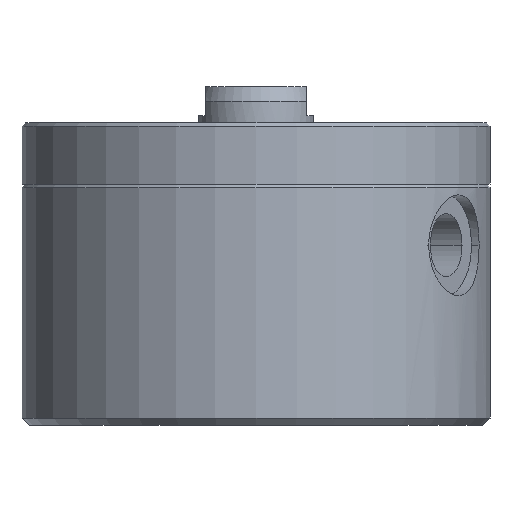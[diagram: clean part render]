
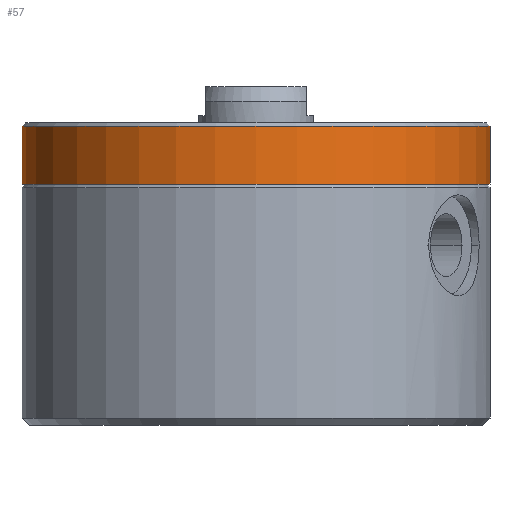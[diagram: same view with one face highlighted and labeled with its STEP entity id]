
A CAD part, front view. The second image highlights one B-rep face of the part: STEP entity #57.
In plain terms, the highlighted cylindrical face has radius 32.5 mm (diameter 65 mm), a partial arc.
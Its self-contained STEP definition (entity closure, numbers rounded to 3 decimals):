
#52 = ORIENTED_EDGE ( 'NONE', *, *, #2197, .T. ) ;
#57 = ADVANCED_FACE ( 'NONE', ( #2710 ), #2702, .T. ) ;
#72 = EDGE_LOOP ( 'NONE', ( #1723, #367, #52, #1390 ) ) ;
#326 = DIRECTION ( 'NONE',  ( -1., 0., 0. ) ) ;
#367 = ORIENTED_EDGE ( 'NONE', *, *, #2449, .T. ) ;
#413 = DIRECTION ( 'NONE',  ( 0., 0., -1. ) ) ;
#667 = VERTEX_POINT ( 'NONE', #2862 ) ;
#777 = CARTESIAN_POINT ( 'NONE',  ( 0., 0., 42. ) ) ;
#909 = AXIS2_PLACEMENT_3D ( 'NONE', #2889, #2815, #2785 ) ;
#911 = AXIS2_PLACEMENT_3D ( 'NONE', #3078, #3062, #2910 ) ;
#1118 = VERTEX_POINT ( 'NONE', #1867 ) ;
#1196 = VERTEX_POINT ( 'NONE', #2160 ) ;
#1390 = ORIENTED_EDGE ( 'NONE', *, *, #2455, .T. ) ;
#1399 = VERTEX_POINT ( 'NONE', #1908 ) ;
#1438 = CARTESIAN_POINT ( 'NONE',  ( 32.5, 0., 42. ) ) ;
#1520 = DIRECTION ( 'NONE',  ( 0., 0., -1. ) ) ;
#1548 = DIRECTION ( 'NONE',  ( 0., 0., -1. ) ) ;
#1554 = CIRCLE ( 'NONE', #909, 32.5 ) ;
#1555 = CARTESIAN_POINT ( 'NONE',  ( -32.5, 0., 42. ) ) ;
#1556 = CIRCLE ( 'NONE', #911, 32.5 ) ;
#1698 = AXIS2_PLACEMENT_3D ( 'NONE', #777, #413, #326 ) ;
#1723 = ORIENTED_EDGE ( 'NONE', *, *, #2187, .F. ) ;
#1816 = VECTOR ( 'NONE', #1520, 1000. ) ;
#1823 = VECTOR ( 'NONE', #1548, 1000. ) ;
#1828 = LINE ( 'NONE', #1438, #1823 ) ;
#1851 = LINE ( 'NONE', #1555, #1816 ) ;
#1867 = CARTESIAN_POINT ( 'NONE',  ( 32.5, 0., 41.5 ) ) ;
#1908 = CARTESIAN_POINT ( 'NONE',  ( -32.5, 0., 33.5 ) ) ;
#2160 = CARTESIAN_POINT ( 'NONE',  ( -32.5, 0., 41.5 ) ) ;
#2187 = EDGE_CURVE ( 'NONE', #1118, #667, #1828, .T. ) ;
#2197 = EDGE_CURVE ( 'NONE', #1196, #1399, #1851, .T. ) ;
#2449 = EDGE_CURVE ( 'NONE', #1118, #1196, #1556, .T. ) ;
#2455 = EDGE_CURVE ( 'NONE', #1399, #667, #1554, .T. ) ;
#2702 = CYLINDRICAL_SURFACE ( 'NONE', #1698, 32.5 ) ;
#2710 = FACE_OUTER_BOUND ( 'NONE', #72, .T. ) ;
#2785 = DIRECTION ( 'NONE',  ( 1., 0., 0. ) ) ;
#2815 = DIRECTION ( 'NONE',  ( 0., 0., 1. ) ) ;
#2862 = CARTESIAN_POINT ( 'NONE',  ( 32.5, 0., 33.5 ) ) ;
#2889 = CARTESIAN_POINT ( 'NONE',  ( 0., 0., 33.5 ) ) ;
#2910 = DIRECTION ( 'NONE',  ( 1., 0., 0. ) ) ;
#3062 = DIRECTION ( 'NONE',  ( 0., 0., -1. ) ) ;
#3078 = CARTESIAN_POINT ( 'NONE',  ( 0., 0., 41.5 ) ) ;
